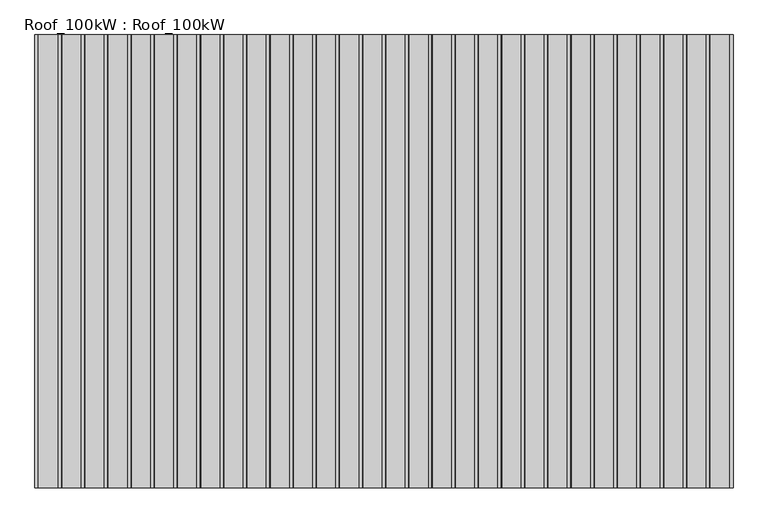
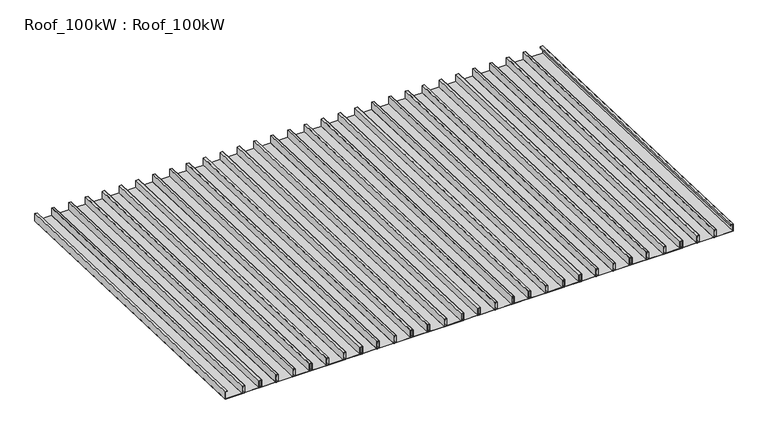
"""IFC4 building model written with IfcOpenShell, lengths in millimetres: beam geometry, Roof_100kW : Roof_100kW."""

from ifc_helpers import new_model, si_unit, origin, place, context, project, spatial, faceted_brep, source, transform, mapped, element, save


def roof_100kw_roof_100kw_570b7f92(model_context):
    return source(origin(), model_context, "Body", "Brep", [
        faceted_brep([(1865.1546242, -12.227048, 3512.7230441), (1865.1546242, -12.227048, 3436.7693421), (1663.8546242, -12.227048, 3436.7693421), (1663.8546242, -12.227048, 3514.7218308), (1684.8546324, -12.227048, 3514.7218308), (1684.8546324, -12.227048, 3516.7206085), (1661.8546191, -12.227048, 3516.7206085), (1661.8546191, -12.227048, 3434.7705604), (1867.1546242, -12.227048, 3434.7705604), (1867.1546242, -12.227048, 3514.7218308), (1842.5546246, -12.227048, 3514.7218308), (1842.5546246, -12.227048, 3497.7321843), (1844.5546251, -12.227048, 3497.7321843), (1844.5546251, -12.227048, 3512.7230441), (1865.1546242, 3464.453761, 3391.3146758), (1844.5546251, 3464.453761, 3391.3146758), (1844.5546251, 3464.453761, 3376.3238198), (1842.5546246, 3464.453761, 3376.3238198), (1842.5546246, 3464.453761, 3393.3134574), (1867.1546294, 3464.453761, 3393.3134574), (1867.1546294, 3464.453761, 3313.3621913), (1661.8546242, 3464.453761, 3313.3621913), (1661.8546242, 3464.453761, 3395.312244), (1684.8546242, 3464.453761, 3395.312244), (1684.8546242, 3464.453761, 3393.3134574), (1663.8546242, 3464.453761, 3393.3134574), (1663.8546242, 3464.453761, 3315.3609776), (1865.1546242, 3464.453761, 3315.3609776)], [[[0, 1, 2, 3, 4, 5, 6, 7, 8, 9, 10, 11, 12, 13]], [[14, 15, 16, 17, 18, 19, 20, 21, 22, 23, 24, 25, 26, 27]], [[14, 27, 1, 0]], [[27, 26, 2, 1]], [[26, 25, 3, 2]], [[25, 24, 4, 3]], [[24, 23, 5, 4]], [[23, 22, 6, 5]], [[22, 21, 7, 6]], [[21, 20, 8, 7]], [[20, 19, 9, 8]], [[19, 18, 10, 9]], [[18, 17, 11, 10]], [[17, 16, 12, 11]], [[16, 15, 13, 12]], [[15, 14, 0, 13]]]),
        faceted_brep([(1687.5378612, -12.227048, 3512.7230441), (1687.5378612, -12.227048, 3436.7693421), (1486.2378612, -12.227048, 3436.7693421), (1486.2378612, -12.227048, 3514.7218308), (1507.2378694, -12.227048, 3514.7218308), (1507.2378694, -12.227048, 3516.7206085), (1484.2378561, -12.227048, 3516.7206085), (1484.2378561, -12.227048, 3434.7705604), (1689.5378612, -12.227048, 3434.7705604), (1689.5378612, -12.227048, 3514.7218308), (1664.9378616, -12.227048, 3514.7218308), (1664.9378616, -12.227048, 3497.7321843), (1666.9378621, -12.227048, 3497.7321843), (1666.9378621, -12.227048, 3512.7230441), (1687.5378612, 3464.453761, 3391.3146758), (1666.9378621, 3464.453761, 3391.3146758), (1666.9378621, 3464.453761, 3376.3238198), (1664.9378616, 3464.453761, 3376.3238198), (1664.9378616, 3464.453761, 3393.3134574), (1689.5378664, 3464.453761, 3393.3134574), (1689.5378664, 3464.453761, 3313.3621913), (1484.2378612, 3464.453761, 3313.3621913), (1484.2378612, 3464.453761, 3395.312244), (1507.2378612, 3464.453761, 3395.312244), (1507.2378612, 3464.453761, 3393.3134574), (1486.2378612, 3464.453761, 3393.3134574), (1486.2378612, 3464.453761, 3315.3609776), (1687.5378612, 3464.453761, 3315.3609776)], [[[0, 1, 2, 3, 4, 5, 6, 7, 8, 9, 10, 11, 12, 13]], [[14, 15, 16, 17, 18, 19, 20, 21, 22, 23, 24, 25, 26, 27]], [[14, 27, 1, 0]], [[27, 26, 2, 1]], [[26, 25, 3, 2]], [[25, 24, 4, 3]], [[24, 23, 5, 4]], [[23, 22, 6, 5]], [[22, 21, 7, 6]], [[21, 20, 8, 7]], [[20, 19, 9, 8]], [[19, 18, 10, 9]], [[18, 17, 11, 10]], [[17, 16, 12, 11]], [[16, 15, 13, 12]], [[15, 14, 0, 13]]]),
        faceted_brep([(1509.9210982, -12.227048, 3512.7230441), (1509.9210982, -12.227048, 3436.7693421), (1308.6210982, -12.227048, 3436.7693421), (1308.6210982, -12.227048, 3514.7218308), (1329.6211064, -12.227048, 3514.7218308), (1329.6211064, -12.227048, 3516.7206085), (1306.6210931, -12.227048, 3516.7206085), (1306.6210931, -12.227048, 3434.7705604), (1511.9210982, -12.227048, 3434.7705604), (1511.9210982, -12.227048, 3514.7218308), (1487.3210986, -12.227048, 3514.7218308), (1487.3210986, -12.227048, 3497.7321843), (1489.3210991, -12.227048, 3497.7321843), (1489.3210991, -12.227048, 3512.7230441), (1509.9210982, 3464.453761, 3391.3146758), (1489.3210991, 3464.453761, 3391.3146758), (1489.3210991, 3464.453761, 3376.3238198), (1487.3210986, 3464.453761, 3376.3238198), (1487.3210986, 3464.453761, 3393.3134574), (1511.9211034, 3464.453761, 3393.3134574), (1511.9211034, 3464.453761, 3313.3621913), (1306.6210982, 3464.453761, 3313.3621913), (1306.6210982, 3464.453761, 3395.312244), (1329.6210982, 3464.453761, 3395.312244), (1329.6210982, 3464.453761, 3393.3134574), (1308.6210982, 3464.453761, 3393.3134574), (1308.6210982, 3464.453761, 3315.3609776), (1509.9210982, 3464.453761, 3315.3609776)], [[[0, 1, 2, 3, 4, 5, 6, 7, 8, 9, 10, 11, 12, 13]], [[14, 15, 16, 17, 18, 19, 20, 21, 22, 23, 24, 25, 26, 27]], [[14, 27, 1, 0]], [[27, 26, 2, 1]], [[26, 25, 3, 2]], [[25, 24, 4, 3]], [[24, 23, 5, 4]], [[23, 22, 6, 5]], [[22, 21, 7, 6]], [[21, 20, 8, 7]], [[20, 19, 9, 8]], [[19, 18, 10, 9]], [[18, 17, 11, 10]], [[17, 16, 12, 11]], [[16, 15, 13, 12]], [[15, 14, 0, 13]]]),
        faceted_brep([(1332.3043352, -12.227048, 3512.7230441), (1332.3043352, -12.227048, 3436.7693421), (1131.0043352, -12.227048, 3436.7693421), (1131.0043352, -12.227048, 3514.7218308), (1152.0043434, -12.227048, 3514.7218308), (1152.0043434, -12.227048, 3516.7206085), (1129.0043301, -12.227048, 3516.7206085), (1129.0043301, -12.227048, 3434.7705604), (1334.3043352, -12.227048, 3434.7705604), (1334.3043352, -12.227048, 3514.7218308), (1309.7043355, -12.227048, 3514.7218308), (1309.7043355, -12.227048, 3497.7321843), (1311.7043361, -12.227048, 3497.7321843), (1311.7043361, -12.227048, 3512.7230441), (1332.3043352, 3464.453761, 3391.3146758), (1311.7043361, 3464.453761, 3391.3146758), (1311.7043361, 3464.453761, 3376.3238198), (1309.7043355, 3464.453761, 3376.3238198), (1309.7043355, 3464.453761, 3393.3134574), (1334.3043404, 3464.453761, 3393.3134574), (1334.3043404, 3464.453761, 3313.3621913), (1129.0043352, 3464.453761, 3313.3621913), (1129.0043352, 3464.453761, 3395.312244), (1152.0043352, 3464.453761, 3395.312244), (1152.0043352, 3464.453761, 3393.3134574), (1131.0043352, 3464.453761, 3393.3134574), (1131.0043352, 3464.453761, 3315.3609776), (1332.3043352, 3464.453761, 3315.3609776)], [[[0, 1, 2, 3, 4, 5, 6, 7, 8, 9, 10, 11, 12, 13]], [[14, 15, 16, 17, 18, 19, 20, 21, 22, 23, 24, 25, 26, 27]], [[14, 27, 1, 0]], [[27, 26, 2, 1]], [[26, 25, 3, 2]], [[25, 24, 4, 3]], [[24, 23, 5, 4]], [[23, 22, 6, 5]], [[22, 21, 7, 6]], [[21, 20, 8, 7]], [[20, 19, 9, 8]], [[19, 18, 10, 9]], [[18, 17, 11, 10]], [[17, 16, 12, 11]], [[16, 15, 13, 12]], [[15, 14, 0, 13]]]),
        faceted_brep([(1154.6875722, -12.227048, 3512.7230441), (1154.6875722, -12.227048, 3436.7693421), (953.3875722, -12.227048, 3436.7693421), (953.3875722, -12.227048, 3514.7218308), (974.3875804, -12.227048, 3514.7218308), (974.3875804, -12.227048, 3516.7206085), (951.3875671, -12.227048, 3516.7206085), (951.3875671, -12.227048, 3434.7705604), (1156.6875722, -12.227048, 3434.7705604), (1156.6875722, -12.227048, 3514.7218308), (1132.0875725, -12.227048, 3514.7218308), (1132.0875725, -12.227048, 3497.7321843), (1134.0875731, -12.227048, 3497.7321843), (1134.0875731, -12.227048, 3512.7230441), (1154.6875722, 3464.453761, 3391.3146758), (1134.0875731, 3464.453761, 3391.3146758), (1134.0875731, 3464.453761, 3376.3238198), (1132.0875725, 3464.453761, 3376.3238198), (1132.0875725, 3464.453761, 3393.3134574), (1156.6875774, 3464.453761, 3393.3134574), (1156.6875774, 3464.453761, 3313.3621913), (951.3875722, 3464.453761, 3313.3621913), (951.3875722, 3464.453761, 3395.312244), (974.3875722, 3464.453761, 3395.312244), (974.3875722, 3464.453761, 3393.3134574), (953.3875722, 3464.453761, 3393.3134574), (953.3875722, 3464.453761, 3315.3609776), (1154.6875722, 3464.453761, 3315.3609776)], [[[0, 1, 2, 3, 4, 5, 6, 7, 8, 9, 10, 11, 12, 13]], [[14, 15, 16, 17, 18, 19, 20, 21, 22, 23, 24, 25, 26, 27]], [[14, 27, 1, 0]], [[27, 26, 2, 1]], [[26, 25, 3, 2]], [[25, 24, 4, 3]], [[24, 23, 5, 4]], [[23, 22, 6, 5]], [[22, 21, 7, 6]], [[21, 20, 8, 7]], [[20, 19, 9, 8]], [[19, 18, 10, 9]], [[18, 17, 11, 10]], [[17, 16, 12, 11]], [[16, 15, 13, 12]], [[15, 14, 0, 13]]]),
        faceted_brep([(977.0708092, -12.227048, 3512.7230441), (977.0708092, -12.227048, 3436.7693421), (775.7708092, -12.227048, 3436.7693421), (775.7708092, -12.227048, 3514.7218308), (796.7708174, -12.227048, 3514.7218308), (796.7708174, -12.227048, 3516.7206085), (773.7708041, -12.227048, 3516.7206085), (773.7708041, -12.227048, 3434.7705604), (979.0708092, -12.227048, 3434.7705604), (979.0708092, -12.227048, 3514.7218308), (954.4708095, -12.227048, 3514.7218308), (954.4708095, -12.227048, 3497.7321843), (956.4708101, -12.227048, 3497.7321843), (956.4708101, -12.227048, 3512.7230441), (977.0708092, 3464.453761, 3391.3146758), (956.4708101, 3464.453761, 3391.3146758), (956.4708101, 3464.453761, 3376.3238198), (954.4708095, 3464.453761, 3376.3238198), (954.4708095, 3464.453761, 3393.3134574), (979.0708144, 3464.453761, 3393.3134574), (979.0708144, 3464.453761, 3313.3621913), (773.7708092, 3464.453761, 3313.3621913), (773.7708092, 3464.453761, 3395.312244), (796.7708092, 3464.453761, 3395.312244), (796.7708092, 3464.453761, 3393.3134574), (775.7708092, 3464.453761, 3393.3134574), (775.7708092, 3464.453761, 3315.3609776), (977.0708092, 3464.453761, 3315.3609776)], [[[0, 1, 2, 3, 4, 5, 6, 7, 8, 9, 10, 11, 12, 13]], [[14, 15, 16, 17, 18, 19, 20, 21, 22, 23, 24, 25, 26, 27]], [[14, 27, 1, 0]], [[27, 26, 2, 1]], [[26, 25, 3, 2]], [[25, 24, 4, 3]], [[24, 23, 5, 4]], [[23, 22, 6, 5]], [[22, 21, 7, 6]], [[21, 20, 8, 7]], [[20, 19, 9, 8]], [[19, 18, 10, 9]], [[18, 17, 11, 10]], [[17, 16, 12, 11]], [[16, 15, 13, 12]], [[15, 14, 0, 13]]]),
        faceted_brep([(799.4540462, -12.227048, 3512.7230441), (799.4540462, -12.227048, 3436.7693421), (598.1540462, -12.227048, 3436.7693421), (598.1540462, -12.227048, 3514.7218308), (619.1540544, -12.227048, 3514.7218308), (619.1540544, -12.227048, 3516.7206085), (596.1540411, -12.227048, 3516.7206085), (596.1540411, -12.227048, 3434.7705604), (801.4540462, -12.227048, 3434.7705604), (801.4540462, -12.227048, 3514.7218308), (776.8540465, -12.227048, 3514.7218308), (776.8540465, -12.227048, 3497.7321843), (778.8540471, -12.227048, 3497.7321843), (778.8540471, -12.227048, 3512.7230441), (799.4540462, 3464.453761, 3391.3146758), (778.8540471, 3464.453761, 3391.3146758), (778.8540471, 3464.453761, 3376.3238198), (776.8540465, 3464.453761, 3376.3238198), (776.8540465, 3464.453761, 3393.3134574), (801.4540514, 3464.453761, 3393.3134574), (801.4540514, 3464.453761, 3313.3621913), (596.1540462, 3464.453761, 3313.3621913), (596.1540462, 3464.453761, 3395.312244), (619.1540462, 3464.453761, 3395.312244), (619.1540462, 3464.453761, 3393.3134574), (598.1540462, 3464.453761, 3393.3134574), (598.1540462, 3464.453761, 3315.3609776), (799.4540462, 3464.453761, 3315.3609776)], [[[0, 1, 2, 3, 4, 5, 6, 7, 8, 9, 10, 11, 12, 13]], [[14, 15, 16, 17, 18, 19, 20, 21, 22, 23, 24, 25, 26, 27]], [[14, 27, 1, 0]], [[27, 26, 2, 1]], [[26, 25, 3, 2]], [[25, 24, 4, 3]], [[24, 23, 5, 4]], [[23, 22, 6, 5]], [[22, 21, 7, 6]], [[21, 20, 8, 7]], [[20, 19, 9, 8]], [[19, 18, 10, 9]], [[18, 17, 11, 10]], [[17, 16, 12, 11]], [[16, 15, 13, 12]], [[15, 14, 0, 13]]]),
        faceted_brep([(621.8372832, -12.227048, 3512.7230441), (621.8372832, -12.227048, 3436.7693421), (420.5372832, -12.227048, 3436.7693421), (420.5372832, -12.227048, 3514.7218308), (441.5372914, -12.227048, 3514.7218308), (441.5372914, -12.227048, 3516.7206085), (418.5372781, -12.227048, 3516.7206085), (418.5372781, -12.227048, 3434.7705604), (623.8372832, -12.227048, 3434.7705604), (623.8372832, -12.227048, 3514.7218308), (599.2372835, -12.227048, 3514.7218308), (599.2372835, -12.227048, 3497.7321843), (601.2372841, -12.227048, 3497.7321843), (601.2372841, -12.227048, 3512.7230441), (621.8372832, 3464.453761, 3391.3146758), (601.2372841, 3464.453761, 3391.3146758), (601.2372841, 3464.453761, 3376.3238198), (599.2372835, 3464.453761, 3376.3238198), (599.2372835, 3464.453761, 3393.3134574), (623.8372884, 3464.453761, 3393.3134574), (623.8372884, 3464.453761, 3313.3621913), (418.5372832, 3464.453761, 3313.3621913), (418.5372832, 3464.453761, 3395.312244), (441.5372832, 3464.453761, 3395.312244), (441.5372832, 3464.453761, 3393.3134574), (420.5372832, 3464.453761, 3393.3134574), (420.5372832, 3464.453761, 3315.3609776), (621.8372832, 3464.453761, 3315.3609776)], [[[0, 1, 2, 3, 4, 5, 6, 7, 8, 9, 10, 11, 12, 13]], [[14, 15, 16, 17, 18, 19, 20, 21, 22, 23, 24, 25, 26, 27]], [[14, 27, 1, 0]], [[27, 26, 2, 1]], [[26, 25, 3, 2]], [[25, 24, 4, 3]], [[24, 23, 5, 4]], [[23, 22, 6, 5]], [[22, 21, 7, 6]], [[21, 20, 8, 7]], [[20, 19, 9, 8]], [[19, 18, 10, 9]], [[18, 17, 11, 10]], [[17, 16, 12, 11]], [[16, 15, 13, 12]], [[15, 14, 0, 13]]]),
        faceted_brep([(444.2205202, -12.227048, 3512.7230441), (444.2205202, -12.227048, 3436.7693421), (242.9205202, -12.227048, 3436.7693421), (242.9205202, -12.227048, 3514.7218308), (263.9205284, -12.227048, 3514.7218308), (263.9205284, -12.227048, 3516.7206085), (240.9205151, -12.227048, 3516.7206085), (240.9205151, -12.227048, 3434.7705604), (446.2205202, -12.227048, 3434.7705604), (446.2205202, -12.227048, 3514.7218308), (421.6205205, -12.227048, 3514.7218308), (421.6205205, -12.227048, 3497.7321843), (423.6205211, -12.227048, 3497.7321843), (423.6205211, -12.227048, 3512.7230441), (444.2205202, 3464.453761, 3391.3146758), (423.6205211, 3464.453761, 3391.3146758), (423.6205211, 3464.453761, 3376.3238198), (421.6205205, 3464.453761, 3376.3238198), (421.6205205, 3464.453761, 3393.3134574), (446.2205254, 3464.453761, 3393.3134574), (446.2205254, 3464.453761, 3313.3621913), (240.9205202, 3464.453761, 3313.3621913), (240.9205202, 3464.453761, 3395.312244), (263.9205202, 3464.453761, 3395.312244), (263.9205202, 3464.453761, 3393.3134574), (242.9205202, 3464.453761, 3393.3134574), (242.9205202, 3464.453761, 3315.3609776), (444.2205202, 3464.453761, 3315.3609776)], [[[0, 1, 2, 3, 4, 5, 6, 7, 8, 9, 10, 11, 12, 13]], [[14, 15, 16, 17, 18, 19, 20, 21, 22, 23, 24, 25, 26, 27]], [[14, 27, 1, 0]], [[27, 26, 2, 1]], [[26, 25, 3, 2]], [[25, 24, 4, 3]], [[24, 23, 5, 4]], [[23, 22, 6, 5]], [[22, 21, 7, 6]], [[21, 20, 8, 7]], [[20, 19, 9, 8]], [[19, 18, 10, 9]], [[18, 17, 11, 10]], [[17, 16, 12, 11]], [[16, 15, 13, 12]], [[15, 14, 0, 13]]]),
        faceted_brep([(266.6037572, -12.227048, 3512.7230441), (266.6037572, -12.227048, 3436.7693421), (65.3037572, -12.227048, 3436.7693421), (65.3037572, -12.227048, 3514.7218308), (86.3037654, -12.227048, 3514.7218308), (86.3037654, -12.227048, 3516.7206085), (63.3037521, -12.227048, 3516.7206085), (63.3037521, -12.227048, 3434.7705604), (268.6037572, -12.227048, 3434.7705604), (268.6037572, -12.227048, 3514.7218308), (244.0037575, -12.227048, 3514.7218308), (244.0037575, -12.227048, 3497.7321843), (246.0037581, -12.227048, 3497.7321843), (246.0037581, -12.227048, 3512.7230441), (266.6037572, 3464.453761, 3391.3146758), (246.0037581, 3464.453761, 3391.3146758), (246.0037581, 3464.453761, 3376.3238198), (244.0037575, 3464.453761, 3376.3238198), (244.0037575, 3464.453761, 3393.3134574), (268.6037624, 3464.453761, 3393.3134574), (268.6037624, 3464.453761, 3313.3621913), (63.3037572, 3464.453761, 3313.3621913), (63.3037572, 3464.453761, 3395.312244), (86.3037572, 3464.453761, 3395.312244), (86.3037572, 3464.453761, 3393.3134574), (65.3037572, 3464.453761, 3393.3134574), (65.3037572, 3464.453761, 3315.3609776), (266.6037572, 3464.453761, 3315.3609776)], [[[0, 1, 2, 3, 4, 5, 6, 7, 8, 9, 10, 11, 12, 13]], [[14, 15, 16, 17, 18, 19, 20, 21, 22, 23, 24, 25, 26, 27]], [[14, 27, 1, 0]], [[27, 26, 2, 1]], [[26, 25, 3, 2]], [[25, 24, 4, 3]], [[24, 23, 5, 4]], [[23, 22, 6, 5]], [[22, 21, 7, 6]], [[21, 20, 8, 7]], [[20, 19, 9, 8]], [[19, 18, 10, 9]], [[18, 17, 11, 10]], [[17, 16, 12, 11]], [[16, 15, 13, 12]], [[15, 14, 0, 13]]]),
        faceted_brep([(88.9869942, -12.227048, 3512.7230441), (88.9869942, -12.227048, 3436.7693421), (-112.3130058, -12.227048, 3436.7693421), (-112.3130058, -12.227048, 3514.7218308), (-91.3129977, -12.227048, 3514.7218308), (-91.3129977, -12.227048, 3516.7206085), (-114.3130109, -12.227048, 3516.7206085), (-114.3130109, -12.227048, 3434.7705604), (90.9869941, -12.227048, 3434.7705604), (90.9869941, -12.227048, 3514.7218308), (66.3869945, -12.227048, 3514.7218308), (66.3869945, -12.227048, 3497.7321843), (68.3869951, -12.227048, 3497.7321843), (68.3869951, -12.227048, 3512.7230441), (88.9869941, 3464.453761, 3391.3146758), (68.3869951, 3464.453761, 3391.3146758), (68.3869951, 3464.453761, 3376.3238198), (66.3869945, 3464.453761, 3376.3238198), (66.3869945, 3464.453761, 3393.3134574), (90.9869994, 3464.453761, 3393.3134574), (90.9869994, 3464.453761, 3313.3621913), (-114.3130059, 3464.453761, 3313.3621913), (-114.3130059, 3464.453761, 3395.312244), (-91.3130059, 3464.453761, 3395.312244), (-91.3130059, 3464.453761, 3393.3134574), (-112.3130059, 3464.453761, 3393.3134574), (-112.3130059, 3464.453761, 3315.3609776), (88.9869941, 3464.453761, 3315.3609776)], [[[0, 1, 2, 3, 4, 5, 6, 7, 8, 9, 10, 11, 12, 13]], [[14, 15, 16, 17, 18, 19, 20, 21, 22, 23, 24, 25, 26, 27]], [[14, 27, 1, 0]], [[27, 26, 2, 1]], [[26, 25, 3, 2]], [[25, 24, 4, 3]], [[24, 23, 5, 4]], [[23, 22, 6, 5]], [[22, 21, 7, 6]], [[21, 20, 8, 7]], [[20, 19, 9, 8]], [[19, 18, 10, 9]], [[18, 17, 11, 10]], [[17, 16, 12, 11]], [[16, 15, 13, 12]], [[15, 14, 0, 13]]]),
        faceted_brep([(-88.6297689, -12.227048, 3512.7230441), (-88.6297689, -12.227048, 3436.7693421), (-289.9297688, -12.227048, 3436.7693421), (-289.9297688, -12.227048, 3514.7218308), (-268.9297607, -12.227048, 3514.7218308), (-268.9297607, -12.227048, 3516.7206085), (-291.9297739, -12.227048, 3516.7206085), (-291.9297739, -12.227048, 3434.7705604), (-86.6297689, -12.227048, 3434.7705604), (-86.6297689, -12.227048, 3514.7218308), (-111.2297685, -12.227048, 3514.7218308), (-111.2297685, -12.227048, 3497.7321843), (-109.2297679, -12.227048, 3497.7321843), (-109.2297679, -12.227048, 3512.7230441), (-88.6297689, 3464.453761, 3391.3146758), (-109.2297679, 3464.453761, 3391.3146758), (-109.2297679, 3464.453761, 3376.3238198), (-111.2297685, 3464.453761, 3376.3238198), (-111.2297685, 3464.453761, 3393.3134574), (-86.6297636, 3464.453761, 3393.3134574), (-86.6297636, 3464.453761, 3313.3621913), (-291.9297689, 3464.453761, 3313.3621913), (-291.9297689, 3464.453761, 3395.312244), (-268.9297689, 3464.453761, 3395.312244), (-268.9297689, 3464.453761, 3393.3134574), (-289.9297689, 3464.453761, 3393.3134574), (-289.9297689, 3464.453761, 3315.3609776), (-88.6297689, 3464.453761, 3315.3609776)], [[[0, 1, 2, 3, 4, 5, 6, 7, 8, 9, 10, 11, 12, 13]], [[14, 15, 16, 17, 18, 19, 20, 21, 22, 23, 24, 25, 26, 27]], [[14, 27, 1, 0]], [[27, 26, 2, 1]], [[26, 25, 3, 2]], [[25, 24, 4, 3]], [[24, 23, 5, 4]], [[23, 22, 6, 5]], [[22, 21, 7, 6]], [[21, 20, 8, 7]], [[20, 19, 9, 8]], [[19, 18, 10, 9]], [[18, 17, 11, 10]], [[17, 16, 12, 11]], [[16, 15, 13, 12]], [[15, 14, 0, 13]]]),
        faceted_brep([(-266.2465319, -12.227048, 3512.7230441), (-266.2465319, -12.227048, 3436.7693421), (-467.5465318, -12.227048, 3436.7693421), (-467.5465318, -12.227048, 3514.7218308), (-446.5465237, -12.227048, 3514.7218308), (-446.5465237, -12.227048, 3516.7206085), (-469.5465369, -12.227048, 3516.7206085), (-469.5465369, -12.227048, 3434.7705604), (-264.2465319, -12.227048, 3434.7705604), (-264.2465319, -12.227048, 3514.7218308), (-288.8465315, -12.227048, 3514.7218308), (-288.8465315, -12.227048, 3497.7321843), (-286.8465309, -12.227048, 3497.7321843), (-286.8465309, -12.227048, 3512.7230441), (-266.2465319, 3464.453761, 3391.3146758), (-286.8465309, 3464.453761, 3391.3146758), (-286.8465309, 3464.453761, 3376.3238198), (-288.8465315, 3464.453761, 3376.3238198), (-288.8465315, 3464.453761, 3393.3134574), (-264.2465266, 3464.453761, 3393.3134574), (-264.2465266, 3464.453761, 3313.3621913), (-469.5465319, 3464.453761, 3313.3621913), (-469.5465319, 3464.453761, 3395.312244), (-446.5465319, 3464.453761, 3395.312244), (-446.5465319, 3464.453761, 3393.3134574), (-467.5465319, 3464.453761, 3393.3134574), (-467.5465319, 3464.453761, 3315.3609776), (-266.2465319, 3464.453761, 3315.3609776)], [[[0, 1, 2, 3, 4, 5, 6, 7, 8, 9, 10, 11, 12, 13]], [[14, 15, 16, 17, 18, 19, 20, 21, 22, 23, 24, 25, 26, 27]], [[14, 27, 1, 0]], [[27, 26, 2, 1]], [[26, 25, 3, 2]], [[25, 24, 4, 3]], [[24, 23, 5, 4]], [[23, 22, 6, 5]], [[22, 21, 7, 6]], [[21, 20, 8, 7]], [[20, 19, 9, 8]], [[19, 18, 10, 9]], [[18, 17, 11, 10]], [[17, 16, 12, 11]], [[16, 15, 13, 12]], [[15, 14, 0, 13]]]),
        faceted_brep([(-443.8632949, -12.227048, 3512.7230441), (-443.8632949, -12.227048, 3436.7693421), (-645.1632948, -12.227048, 3436.7693421), (-645.1632948, -12.227048, 3514.7218308), (-624.1632867, -12.227048, 3514.7218308), (-624.1632867, -12.227048, 3516.7206085), (-647.1632999, -12.227048, 3516.7206085), (-647.1632999, -12.227048, 3434.7705604), (-441.8632949, -12.227048, 3434.7705604), (-441.8632949, -12.227048, 3514.7218308), (-466.4632945, -12.227048, 3514.7218308), (-466.4632945, -12.227048, 3497.7321843), (-464.4632939, -12.227048, 3497.7321843), (-464.4632939, -12.227048, 3512.7230441), (-443.8632949, 3464.453761, 3391.3146758), (-464.4632939, 3464.453761, 3391.3146758), (-464.4632939, 3464.453761, 3376.3238198), (-466.4632945, 3464.453761, 3376.3238198), (-466.4632945, 3464.453761, 3393.3134574), (-441.8632896, 3464.453761, 3393.3134574), (-441.8632896, 3464.453761, 3313.3621913), (-647.1632949, 3464.453761, 3313.3621913), (-647.1632949, 3464.453761, 3395.312244), (-624.1632949, 3464.453761, 3395.312244), (-624.1632949, 3464.453761, 3393.3134574), (-645.1632949, 3464.453761, 3393.3134574), (-645.1632949, 3464.453761, 3315.3609776), (-443.8632949, 3464.453761, 3315.3609776)], [[[0, 1, 2, 3, 4, 5, 6, 7, 8, 9, 10, 11, 12, 13]], [[14, 15, 16, 17, 18, 19, 20, 21, 22, 23, 24, 25, 26, 27]], [[14, 27, 1, 0]], [[27, 26, 2, 1]], [[26, 25, 3, 2]], [[25, 24, 4, 3]], [[24, 23, 5, 4]], [[23, 22, 6, 5]], [[22, 21, 7, 6]], [[21, 20, 8, 7]], [[20, 19, 9, 8]], [[19, 18, 10, 9]], [[18, 17, 11, 10]], [[17, 16, 12, 11]], [[16, 15, 13, 12]], [[15, 14, 0, 13]]]),
        faceted_brep([(-621.4800579, -12.227048, 3512.7230441), (-621.4800579, -12.227048, 3436.7693421), (-822.7800578, -12.227048, 3436.7693421), (-822.7800578, -12.227048, 3514.7218308), (-801.7800497, -12.227048, 3514.7218308), (-801.7800497, -12.227048, 3516.7206085), (-824.7800629, -12.227048, 3516.7206085), (-824.7800629, -12.227048, 3434.7705604), (-619.4800579, -12.227048, 3434.7705604), (-619.4800579, -12.227048, 3514.7218308), (-644.0800575, -12.227048, 3514.7218308), (-644.0800575, -12.227048, 3497.7321843), (-642.0800569, -12.227048, 3497.7321843), (-642.0800569, -12.227048, 3512.7230441), (-621.4800579, 3464.453761, 3391.3146758), (-642.0800569, 3464.453761, 3391.3146758), (-642.0800569, 3464.453761, 3376.3238198), (-644.0800575, 3464.453761, 3376.3238198), (-644.0800575, 3464.453761, 3393.3134574), (-619.4800526, 3464.453761, 3393.3134574), (-619.4800526, 3464.453761, 3313.3621913), (-824.7800579, 3464.453761, 3313.3621913), (-824.7800579, 3464.453761, 3395.312244), (-801.7800579, 3464.453761, 3395.312244), (-801.7800579, 3464.453761, 3393.3134574), (-822.7800579, 3464.453761, 3393.3134574), (-822.7800579, 3464.453761, 3315.3609776), (-621.4800579, 3464.453761, 3315.3609776)], [[[0, 1, 2, 3, 4, 5, 6, 7, 8, 9, 10, 11, 12, 13]], [[14, 15, 16, 17, 18, 19, 20, 21, 22, 23, 24, 25, 26, 27]], [[14, 27, 1, 0]], [[27, 26, 2, 1]], [[26, 25, 3, 2]], [[25, 24, 4, 3]], [[24, 23, 5, 4]], [[23, 22, 6, 5]], [[22, 21, 7, 6]], [[21, 20, 8, 7]], [[20, 19, 9, 8]], [[19, 18, 10, 9]], [[18, 17, 11, 10]], [[17, 16, 12, 11]], [[16, 15, 13, 12]], [[15, 14, 0, 13]]]),
        faceted_brep([(-799.0968209, -12.227048, 3512.7230441), (-799.0968209, -12.227048, 3436.7693421), (-1000.3968208, -12.227048, 3436.7693421), (-1000.3968208, -12.227048, 3514.7218308), (-979.3968127, -12.227048, 3514.7218308), (-979.3968127, -12.227048, 3516.7206085), (-1002.3968259, -12.227048, 3516.7206085), (-1002.3968259, -12.227048, 3434.7705604), (-797.0968209, -12.227048, 3434.7705604), (-797.0968209, -12.227048, 3514.7218308), (-821.6968205, -12.227048, 3514.7218308), (-821.6968205, -12.227048, 3497.7321843), (-819.6968199, -12.227048, 3497.7321843), (-819.6968199, -12.227048, 3512.7230441), (-799.0968209, 3464.453761, 3391.3146758), (-819.6968199, 3464.453761, 3391.3146758), (-819.6968199, 3464.453761, 3376.3238198), (-821.6968205, 3464.453761, 3376.3238198), (-821.6968205, 3464.453761, 3393.3134574), (-797.0968156, 3464.453761, 3393.3134574), (-797.0968156, 3464.453761, 3313.3621913), (-1002.3968209, 3464.453761, 3313.3621913), (-1002.3968209, 3464.453761, 3395.312244), (-979.3968209, 3464.453761, 3395.312244), (-979.3968209, 3464.453761, 3393.3134574), (-1000.3968209, 3464.453761, 3393.3134574), (-1000.3968209, 3464.453761, 3315.3609776), (-799.0968209, 3464.453761, 3315.3609776)], [[[0, 1, 2, 3, 4, 5, 6, 7, 8, 9, 10, 11, 12, 13]], [[14, 15, 16, 17, 18, 19, 20, 21, 22, 23, 24, 25, 26, 27]], [[14, 27, 1, 0]], [[27, 26, 2, 1]], [[26, 25, 3, 2]], [[25, 24, 4, 3]], [[24, 23, 5, 4]], [[23, 22, 6, 5]], [[22, 21, 7, 6]], [[21, 20, 8, 7]], [[20, 19, 9, 8]], [[19, 18, 10, 9]], [[18, 17, 11, 10]], [[17, 16, 12, 11]], [[16, 15, 13, 12]], [[15, 14, 0, 13]]]),
        faceted_brep([(-976.7135839, -12.227048, 3512.7230441), (-976.7135839, -12.227048, 3436.7693421), (-1178.0135838, -12.227048, 3436.7693421), (-1178.0135838, -12.227048, 3514.7218308), (-1157.0135757, -12.227048, 3514.7218308), (-1157.0135757, -12.227048, 3516.7206085), (-1180.0135889, -12.227048, 3516.7206085), (-1180.0135889, -12.227048, 3434.7705604), (-974.7135839, -12.227048, 3434.7705604), (-974.7135839, -12.227048, 3514.7218308), (-999.3135835, -12.227048, 3514.7218308), (-999.3135835, -12.227048, 3497.7321843), (-997.3135829, -12.227048, 3497.7321843), (-997.3135829, -12.227048, 3512.7230441), (-976.7135839, 3464.453761, 3391.3146758), (-997.3135829, 3464.453761, 3391.3146758), (-997.3135829, 3464.453761, 3376.3238198), (-999.3135835, 3464.453761, 3376.3238198), (-999.3135835, 3464.453761, 3393.3134574), (-974.7135786, 3464.453761, 3393.3134574), (-974.7135786, 3464.453761, 3313.3621913), (-1180.0135839, 3464.453761, 3313.3621913), (-1180.0135839, 3464.453761, 3395.312244), (-1157.0135839, 3464.453761, 3395.312244), (-1157.0135839, 3464.453761, 3393.3134574), (-1178.0135839, 3464.453761, 3393.3134574), (-1178.0135839, 3464.453761, 3315.3609776), (-976.7135839, 3464.453761, 3315.3609776)], [[[0, 1, 2, 3, 4, 5, 6, 7, 8, 9, 10, 11, 12, 13]], [[14, 15, 16, 17, 18, 19, 20, 21, 22, 23, 24, 25, 26, 27]], [[14, 27, 1, 0]], [[27, 26, 2, 1]], [[26, 25, 3, 2]], [[25, 24, 4, 3]], [[24, 23, 5, 4]], [[23, 22, 6, 5]], [[22, 21, 7, 6]], [[21, 20, 8, 7]], [[20, 19, 9, 8]], [[19, 18, 10, 9]], [[18, 17, 11, 10]], [[17, 16, 12, 11]], [[16, 15, 13, 12]], [[15, 14, 0, 13]]]),
        faceted_brep([(-1154.3303469, -12.227048, 3512.7230441), (-1154.3303469, -12.227048, 3436.7693421), (-1355.6303468, -12.227048, 3436.7693421), (-1355.6303468, -12.227048, 3514.7218308), (-1334.6303387, -12.227048, 3514.7218308), (-1334.6303387, -12.227048, 3516.7206085), (-1357.6303519, -12.227048, 3516.7206085), (-1357.6303519, -12.227048, 3434.7705604), (-1152.3303469, -12.227048, 3434.7705604), (-1152.3303469, -12.227048, 3514.7218308), (-1176.9303465, -12.227048, 3514.7218308), (-1176.9303465, -12.227048, 3497.7321843), (-1174.9303459, -12.227048, 3497.7321843), (-1174.9303459, -12.227048, 3512.7230441), (-1154.3303469, 3464.453761, 3391.3146758), (-1174.9303459, 3464.453761, 3391.3146758), (-1174.9303459, 3464.453761, 3376.3238198), (-1176.9303465, 3464.453761, 3376.3238198), (-1176.9303465, 3464.453761, 3393.3134574), (-1152.3303416, 3464.453761, 3393.3134574), (-1152.3303416, 3464.453761, 3313.3621913), (-1357.6303469, 3464.453761, 3313.3621913), (-1357.6303469, 3464.453761, 3395.312244), (-1334.6303469, 3464.453761, 3395.312244), (-1334.6303469, 3464.453761, 3393.3134574), (-1355.6303469, 3464.453761, 3393.3134574), (-1355.6303469, 3464.453761, 3315.3609776), (-1154.3303469, 3464.453761, 3315.3609776)], [[[0, 1, 2, 3, 4, 5, 6, 7, 8, 9, 10, 11, 12, 13]], [[14, 15, 16, 17, 18, 19, 20, 21, 22, 23, 24, 25, 26, 27]], [[14, 27, 1, 0]], [[27, 26, 2, 1]], [[26, 25, 3, 2]], [[25, 24, 4, 3]], [[24, 23, 5, 4]], [[23, 22, 6, 5]], [[22, 21, 7, 6]], [[21, 20, 8, 7]], [[20, 19, 9, 8]], [[19, 18, 10, 9]], [[18, 17, 11, 10]], [[17, 16, 12, 11]], [[16, 15, 13, 12]], [[15, 14, 0, 13]]]),
        faceted_brep([(-1331.9471099, -12.227048, 3512.7230441), (-1331.9471099, -12.227048, 3436.7693421), (-1533.2471098, -12.227048, 3436.7693421), (-1533.2471098, -12.227048, 3514.7218308), (-1512.2471017, -12.227048, 3514.7218308), (-1512.2471017, -12.227048, 3516.7206085), (-1535.2471149, -12.227048, 3516.7206085), (-1535.2471149, -12.227048, 3434.7705604), (-1329.9471099, -12.227048, 3434.7705604), (-1329.9471099, -12.227048, 3514.7218308), (-1354.5471095, -12.227048, 3514.7218308), (-1354.5471095, -12.227048, 3497.7321843), (-1352.5471089, -12.227048, 3497.7321843), (-1352.5471089, -12.227048, 3512.7230441), (-1331.9471099, 3464.453761, 3391.3146758), (-1352.5471089, 3464.453761, 3391.3146758), (-1352.5471089, 3464.453761, 3376.3238198), (-1354.5471095, 3464.453761, 3376.3238198), (-1354.5471095, 3464.453761, 3393.3134574), (-1329.9471046, 3464.453761, 3393.3134574), (-1329.9471046, 3464.453761, 3313.3621913), (-1535.2471099, 3464.453761, 3313.3621913), (-1535.2471099, 3464.453761, 3395.312244), (-1512.2471099, 3464.453761, 3395.312244), (-1512.2471099, 3464.453761, 3393.3134574), (-1533.2471099, 3464.453761, 3393.3134574), (-1533.2471099, 3464.453761, 3315.3609776), (-1331.9471099, 3464.453761, 3315.3609776)], [[[0, 1, 2, 3, 4, 5, 6, 7, 8, 9, 10, 11, 12, 13]], [[14, 15, 16, 17, 18, 19, 20, 21, 22, 23, 24, 25, 26, 27]], [[14, 27, 1, 0]], [[27, 26, 2, 1]], [[26, 25, 3, 2]], [[25, 24, 4, 3]], [[24, 23, 5, 4]], [[23, 22, 6, 5]], [[22, 21, 7, 6]], [[21, 20, 8, 7]], [[20, 19, 9, 8]], [[19, 18, 10, 9]], [[18, 17, 11, 10]], [[17, 16, 12, 11]], [[16, 15, 13, 12]], [[15, 14, 0, 13]]]),
        faceted_brep([(-1509.5638729, -12.227048, 3512.7230441), (-1509.5638729, -12.227048, 3436.7693421), (-1710.8638728, -12.227048, 3436.7693421), (-1710.8638728, -12.227048, 3514.7218308), (-1689.8638647, -12.227048, 3514.7218308), (-1689.8638647, -12.227048, 3516.7206085), (-1712.8638779, -12.227048, 3516.7206085), (-1712.8638779, -12.227048, 3434.7705604), (-1507.5638729, -12.227048, 3434.7705604), (-1507.5638729, -12.227048, 3514.7218308), (-1532.1638725, -12.227048, 3514.7218308), (-1532.1638725, -12.227048, 3497.7321843), (-1530.163872, -12.227048, 3497.7321843), (-1530.163872, -12.227048, 3512.7230441), (-1509.5638729, 3464.453761, 3391.3146758), (-1530.163872, 3464.453761, 3391.3146758), (-1530.163872, 3464.453761, 3376.3238198), (-1532.1638725, 3464.453761, 3376.3238198), (-1532.1638725, 3464.453761, 3393.3134574), (-1507.5638676, 3464.453761, 3393.3134574), (-1507.5638676, 3464.453761, 3313.3621913), (-1712.8638729, 3464.453761, 3313.3621913), (-1712.8638729, 3464.453761, 3395.312244), (-1689.8638729, 3464.453761, 3395.312244), (-1689.8638729, 3464.453761, 3393.3134574), (-1710.8638729, 3464.453761, 3393.3134574), (-1710.8638729, 3464.453761, 3315.3609776), (-1509.5638729, 3464.453761, 3315.3609776)], [[[0, 1, 2, 3, 4, 5, 6, 7, 8, 9, 10, 11, 12, 13]], [[14, 15, 16, 17, 18, 19, 20, 21, 22, 23, 24, 25, 26, 27]], [[14, 27, 1, 0]], [[27, 26, 2, 1]], [[26, 25, 3, 2]], [[25, 24, 4, 3]], [[24, 23, 5, 4]], [[23, 22, 6, 5]], [[22, 21, 7, 6]], [[21, 20, 8, 7]], [[20, 19, 9, 8]], [[19, 18, 10, 9]], [[18, 17, 11, 10]], [[17, 16, 12, 11]], [[16, 15, 13, 12]], [[15, 14, 0, 13]]]),
        faceted_brep([(-1687.1806359, -12.227048, 3512.7230441), (-1687.1806359, -12.227048, 3436.7693421), (-1888.4806358, -12.227048, 3436.7693421), (-1888.4806358, -12.227048, 3514.7218308), (-1867.4806277, -12.227048, 3514.7218308), (-1867.4806277, -12.227048, 3516.7206085), (-1890.4806409, -12.227048, 3516.7206085), (-1890.4806409, -12.227048, 3434.7705604), (-1685.1806359, -12.227048, 3434.7705604), (-1685.1806359, -12.227048, 3514.7218308), (-1709.7806355, -12.227048, 3514.7218308), (-1709.7806355, -12.227048, 3497.7321843), (-1707.780635, -12.227048, 3497.7321843), (-1707.780635, -12.227048, 3512.7230441), (-1687.1806359, 3464.453761, 3391.3146758), (-1707.780635, 3464.453761, 3391.3146758), (-1707.780635, 3464.453761, 3376.3238198), (-1709.7806355, 3464.453761, 3376.3238198), (-1709.7806355, 3464.453761, 3393.3134574), (-1685.1806306, 3464.453761, 3393.3134574), (-1685.1806306, 3464.453761, 3313.3621913), (-1890.4806359, 3464.453761, 3313.3621913), (-1890.4806359, 3464.453761, 3395.312244), (-1867.4806359, 3464.453761, 3395.312244), (-1867.4806359, 3464.453761, 3393.3134574), (-1888.4806359, 3464.453761, 3393.3134574), (-1888.4806359, 3464.453761, 3315.3609776), (-1687.1806359, 3464.453761, 3315.3609776)], [[[0, 1, 2, 3, 4, 5, 6, 7, 8, 9, 10, 11, 12, 13]], [[14, 15, 16, 17, 18, 19, 20, 21, 22, 23, 24, 25, 26, 27]], [[14, 27, 1, 0]], [[27, 26, 2, 1]], [[26, 25, 3, 2]], [[25, 24, 4, 3]], [[24, 23, 5, 4]], [[23, 22, 6, 5]], [[22, 21, 7, 6]], [[21, 20, 8, 7]], [[20, 19, 9, 8]], [[19, 18, 10, 9]], [[18, 17, 11, 10]], [[17, 16, 12, 11]], [[16, 15, 13, 12]], [[15, 14, 0, 13]]]),
        faceted_brep([(-1864.7973989, -12.227048, 3512.7230441), (-1864.7973989, -12.227048, 3436.7693421), (-2066.0973988, -12.227048, 3436.7693421), (-2066.0973988, -12.227048, 3514.7218308), (-2045.0973907, -12.227048, 3514.7218308), (-2045.0973907, -12.227048, 3516.7206085), (-2068.097404, -12.227048, 3516.7206085), (-2068.097404, -12.227048, 3434.7705604), (-1862.7973989, -12.227048, 3434.7705604), (-1862.7973989, -12.227048, 3514.7218308), (-1887.3973985, -12.227048, 3514.7218308), (-1887.3973985, -12.227048, 3497.7321843), (-1885.397398, -12.227048, 3497.7321843), (-1885.397398, -12.227048, 3512.7230441), (-1864.7973989, 3464.453761, 3391.3146758), (-1885.397398, 3464.453761, 3391.3146758), (-1885.397398, 3464.453761, 3376.3238198), (-1887.3973985, 3464.453761, 3376.3238198), (-1887.3973985, 3464.453761, 3393.3134574), (-1862.7973937, 3464.453761, 3393.3134574), (-1862.7973937, 3464.453761, 3313.3621913), (-2068.0973989, 3464.453761, 3313.3621913), (-2068.0973989, 3464.453761, 3395.312244), (-2045.0973989, 3464.453761, 3395.312244), (-2045.0973989, 3464.453761, 3393.3134574), (-2066.0973989, 3464.453761, 3393.3134574), (-2066.0973989, 3464.453761, 3315.3609776), (-1864.7973989, 3464.453761, 3315.3609776)], [[[0, 1, 2, 3, 4, 5, 6, 7, 8, 9, 10, 11, 12, 13]], [[14, 15, 16, 17, 18, 19, 20, 21, 22, 23, 24, 25, 26, 27]], [[14, 27, 1, 0]], [[27, 26, 2, 1]], [[26, 25, 3, 2]], [[25, 24, 4, 3]], [[24, 23, 5, 4]], [[23, 22, 6, 5]], [[22, 21, 7, 6]], [[21, 20, 8, 7]], [[20, 19, 9, 8]], [[19, 18, 10, 9]], [[18, 17, 11, 10]], [[17, 16, 12, 11]], [[16, 15, 13, 12]], [[15, 14, 0, 13]]]),
        faceted_brep([(-2042.4141619, -12.227048, 3512.7230441), (-2042.4141619, -12.227048, 3436.7693421), (-2243.7141619, -12.227048, 3436.7693421), (-2243.7141619, -12.227048, 3514.7218308), (-2222.7141537, -12.227048, 3514.7218308), (-2222.7141537, -12.227048, 3516.7206085), (-2245.714167, -12.227048, 3516.7206085), (-2245.714167, -12.227048, 3434.7705604), (-2040.4141619, -12.227048, 3434.7705604), (-2040.4141619, -12.227048, 3514.7218308), (-2065.0141615, -12.227048, 3514.7218308), (-2065.0141615, -12.227048, 3497.7321843), (-2063.014161, -12.227048, 3497.7321843), (-2063.014161, -12.227048, 3512.7230441), (-2042.4141619, 3464.453761, 3391.3146758), (-2063.014161, 3464.453761, 3391.3146758), (-2063.014161, 3464.453761, 3376.3238198), (-2065.0141615, 3464.453761, 3376.3238198), (-2065.0141615, 3464.453761, 3393.3134574), (-2040.4141567, 3464.453761, 3393.3134574), (-2040.4141567, 3464.453761, 3313.3621913), (-2245.7141619, 3464.453761, 3313.3621913), (-2245.7141619, 3464.453761, 3395.312244), (-2222.7141619, 3464.453761, 3395.312244), (-2222.7141619, 3464.453761, 3393.3134574), (-2243.7141619, 3464.453761, 3393.3134574), (-2243.7141619, 3464.453761, 3315.3609776), (-2042.4141619, 3464.453761, 3315.3609776)], [[[0, 1, 2, 3, 4, 5, 6, 7, 8, 9, 10, 11, 12, 13]], [[14, 15, 16, 17, 18, 19, 20, 21, 22, 23, 24, 25, 26, 27]], [[14, 27, 1, 0]], [[27, 26, 2, 1]], [[26, 25, 3, 2]], [[25, 24, 4, 3]], [[24, 23, 5, 4]], [[23, 22, 6, 5]], [[22, 21, 7, 6]], [[21, 20, 8, 7]], [[20, 19, 9, 8]], [[19, 18, 10, 9]], [[18, 17, 11, 10]], [[17, 16, 12, 11]], [[16, 15, 13, 12]], [[15, 14, 0, 13]]]),
        faceted_brep([(-2220.0309249, -12.227048, 3512.7230441), (-2220.0309249, -12.227048, 3436.7693421), (-2421.3309249, -12.227048, 3436.7693421), (-2421.3309249, -12.227048, 3514.7218308), (-2400.3309167, -12.227048, 3514.7218308), (-2400.3309167, -12.227048, 3516.7206085), (-2423.33093, -12.227048, 3516.7206085), (-2423.33093, -12.227048, 3434.7705604), (-2218.0309249, -12.227048, 3434.7705604), (-2218.0309249, -12.227048, 3514.7218308), (-2242.6309245, -12.227048, 3514.7218308), (-2242.6309245, -12.227048, 3497.7321843), (-2240.630924, -12.227048, 3497.7321843), (-2240.630924, -12.227048, 3512.7230441), (-2220.0309249, 3464.453761, 3391.3146758), (-2240.630924, 3464.453761, 3391.3146758), (-2240.630924, 3464.453761, 3376.3238198), (-2242.6309245, 3464.453761, 3376.3238198), (-2242.6309245, 3464.453761, 3393.3134574), (-2218.0309197, 3464.453761, 3393.3134574), (-2218.0309197, 3464.453761, 3313.3621913), (-2423.3309249, 3464.453761, 3313.3621913), (-2423.3309249, 3464.453761, 3395.312244), (-2400.3309249, 3464.453761, 3395.312244), (-2400.3309249, 3464.453761, 3393.3134574), (-2421.3309249, 3464.453761, 3393.3134574), (-2421.3309249, 3464.453761, 3315.3609776), (-2220.0309249, 3464.453761, 3315.3609776)], [[[0, 1, 2, 3, 4, 5, 6, 7, 8, 9, 10, 11, 12, 13]], [[14, 15, 16, 17, 18, 19, 20, 21, 22, 23, 24, 25, 26, 27]], [[14, 27, 1, 0]], [[27, 26, 2, 1]], [[26, 25, 3, 2]], [[25, 24, 4, 3]], [[24, 23, 5, 4]], [[23, 22, 6, 5]], [[22, 21, 7, 6]], [[21, 20, 8, 7]], [[20, 19, 9, 8]], [[19, 18, 10, 9]], [[18, 17, 11, 10]], [[17, 16, 12, 11]], [[16, 15, 13, 12]], [[15, 14, 0, 13]]]),
        faceted_brep([(-2397.6476879, -12.227048, 3512.7230441), (-2397.6476879, -12.227048, 3436.7693421), (-2598.9476879, -12.227048, 3436.7693421), (-2598.9476879, -12.227048, 3514.7218308), (-2577.9476797, -12.227048, 3514.7218308), (-2577.9476797, -12.227048, 3516.7206085), (-2600.947693, -12.227048, 3516.7206085), (-2600.947693, -12.227048, 3434.7705604), (-2395.6476879, -12.227048, 3434.7705604), (-2395.6476879, -12.227048, 3514.7218308), (-2420.2476875, -12.227048, 3514.7218308), (-2420.2476875, -12.227048, 3497.7321843), (-2418.247687, -12.227048, 3497.7321843), (-2418.247687, -12.227048, 3512.7230441), (-2397.6476879, 3464.453761, 3391.3146758), (-2418.247687, 3464.453761, 3391.3146758), (-2418.247687, 3464.453761, 3376.3238198), (-2420.2476875, 3464.453761, 3376.3238198), (-2420.2476875, 3464.453761, 3393.3134574), (-2395.6476827, 3464.453761, 3393.3134574), (-2395.6476827, 3464.453761, 3313.3621913), (-2600.9476879, 3464.453761, 3313.3621913), (-2600.9476879, 3464.453761, 3395.312244), (-2577.9476879, 3464.453761, 3395.312244), (-2577.9476879, 3464.453761, 3393.3134574), (-2598.9476879, 3464.453761, 3393.3134574), (-2598.9476879, 3464.453761, 3315.3609776), (-2397.6476879, 3464.453761, 3315.3609776)], [[[0, 1, 2, 3, 4, 5, 6, 7, 8, 9, 10, 11, 12, 13]], [[14, 15, 16, 17, 18, 19, 20, 21, 22, 23, 24, 25, 26, 27]], [[14, 27, 1, 0]], [[27, 26, 2, 1]], [[26, 25, 3, 2]], [[25, 24, 4, 3]], [[24, 23, 5, 4]], [[23, 22, 6, 5]], [[22, 21, 7, 6]], [[21, 20, 8, 7]], [[20, 19, 9, 8]], [[19, 18, 10, 9]], [[18, 17, 11, 10]], [[17, 16, 12, 11]], [[16, 15, 13, 12]], [[15, 14, 0, 13]]]),
        faceted_brep([(-2575.2644509, -12.227048, 3512.7230441), (-2575.2644509, -12.227048, 3436.7693421), (-2776.5644509, -12.227048, 3436.7693421), (-2776.5644509, -12.227048, 3514.7218308), (-2755.5644427, -12.227048, 3514.7218308), (-2755.5644427, -12.227048, 3516.7206085), (-2778.564456, -12.227048, 3516.7206085), (-2778.564456, -12.227048, 3434.7705604), (-2573.2644509, -12.227048, 3434.7705604), (-2573.2644509, -12.227048, 3514.7218308), (-2597.8644505, -12.227048, 3514.7218308), (-2597.8644505, -12.227048, 3497.7321843), (-2595.86445, -12.227048, 3497.7321843), (-2595.86445, -12.227048, 3512.7230441), (-2575.2644509, 3464.453761, 3391.3146758), (-2595.86445, 3464.453761, 3391.3146758), (-2595.86445, 3464.453761, 3376.3238198), (-2597.8644505, 3464.453761, 3376.3238198), (-2597.8644505, 3464.453761, 3393.3134574), (-2573.2644457, 3464.453761, 3393.3134574), (-2573.2644457, 3464.453761, 3313.3621913), (-2778.5644509, 3464.453761, 3313.3621913), (-2778.5644509, 3464.453761, 3395.312244), (-2755.5644509, 3464.453761, 3395.312244), (-2755.5644509, 3464.453761, 3393.3134574), (-2776.5644509, 3464.453761, 3393.3134574), (-2776.5644509, 3464.453761, 3315.3609776), (-2575.2644509, 3464.453761, 3315.3609776)], [[[0, 1, 2, 3, 4, 5, 6, 7, 8, 9, 10, 11, 12, 13]], [[14, 15, 16, 17, 18, 19, 20, 21, 22, 23, 24, 25, 26, 27]], [[14, 27, 1, 0]], [[27, 26, 2, 1]], [[26, 25, 3, 2]], [[25, 24, 4, 3]], [[24, 23, 5, 4]], [[23, 22, 6, 5]], [[22, 21, 7, 6]], [[21, 20, 8, 7]], [[20, 19, 9, 8]], [[19, 18, 10, 9]], [[18, 17, 11, 10]], [[17, 16, 12, 11]], [[16, 15, 13, 12]], [[15, 14, 0, 13]]]),
        faceted_brep([(-2752.8812139, -12.227048, 3512.7230441), (-2752.8812139, -12.227048, 3436.7693421), (-2954.1812139, -12.227048, 3436.7693421), (-2954.1812139, -12.227048, 3514.7218308), (-2933.1812057, -12.227048, 3514.7218308), (-2933.1812057, -12.227048, 3516.7206085), (-2956.181219, -12.227048, 3516.7206085), (-2956.181219, -12.227048, 3434.7705604), (-2750.8812139, -12.227048, 3434.7705604), (-2750.8812139, -12.227048, 3514.7218308), (-2775.4812135, -12.227048, 3514.7218308), (-2775.4812135, -12.227048, 3497.7321843), (-2773.481213, -12.227048, 3497.7321843), (-2773.481213, -12.227048, 3512.7230441), (-2752.8812139, 3464.453761, 3391.3146758), (-2773.481213, 3464.453761, 3391.3146758), (-2773.481213, 3464.453761, 3376.3238198), (-2775.4812135, 3464.453761, 3376.3238198), (-2775.4812135, 3464.453761, 3393.3134574), (-2750.8812087, 3464.453761, 3393.3134574), (-2750.8812087, 3464.453761, 3313.3621913), (-2956.1812139, 3464.453761, 3313.3621913), (-2956.1812139, 3464.453761, 3395.312244), (-2933.1812139, 3464.453761, 3395.312244), (-2933.1812139, 3464.453761, 3393.3134574), (-2954.1812139, 3464.453761, 3393.3134574), (-2954.1812139, 3464.453761, 3315.3609776), (-2752.8812139, 3464.453761, 3315.3609776)], [[[0, 1, 2, 3, 4, 5, 6, 7, 8, 9, 10, 11, 12, 13]], [[14, 15, 16, 17, 18, 19, 20, 21, 22, 23, 24, 25, 26, 27]], [[14, 27, 1, 0]], [[27, 26, 2, 1]], [[26, 25, 3, 2]], [[25, 24, 4, 3]], [[24, 23, 5, 4]], [[23, 22, 6, 5]], [[22, 21, 7, 6]], [[21, 20, 8, 7]], [[20, 19, 9, 8]], [[19, 18, 10, 9]], [[18, 17, 11, 10]], [[17, 16, 12, 11]], [[16, 15, 13, 12]], [[15, 14, 0, 13]]]),
        faceted_brep([(-2930.4979769, -12.227048, 3512.7230441), (-2930.4979769, -12.227048, 3436.7693421), (-3131.7979769, -12.227048, 3436.7693421), (-3131.7979769, -12.227048, 3514.7218308), (-3110.7979687, -12.227048, 3514.7218308), (-3110.7979687, -12.227048, 3516.7206085), (-3133.797982, -12.227048, 3516.7206085), (-3133.797982, -12.227048, 3434.7705604), (-2928.4979769, -12.227048, 3434.7705604), (-2928.4979769, -12.227048, 3514.7218308), (-2953.0979765, -12.227048, 3514.7218308), (-2953.0979765, -12.227048, 3497.7321843), (-2951.097976, -12.227048, 3497.7321843), (-2951.097976, -12.227048, 3512.7230441), (-2930.4979769, 3464.453761, 3391.3146758), (-2951.097976, 3464.453761, 3391.3146758), (-2951.097976, 3464.453761, 3376.3238198), (-2953.0979765, 3464.453761, 3376.3238198), (-2953.0979765, 3464.453761, 3393.3134574), (-2928.4979717, 3464.453761, 3393.3134574), (-2928.4979717, 3464.453761, 3313.3621913), (-3133.7979769, 3464.453761, 3313.3621913), (-3133.7979769, 3464.453761, 3395.312244), (-3110.7979769, 3464.453761, 3395.312244), (-3110.7979769, 3464.453761, 3393.3134574), (-3131.7979769, 3464.453761, 3393.3134574), (-3131.7979769, 3464.453761, 3315.3609776), (-2930.4979769, 3464.453761, 3315.3609776)], [[[0, 1, 2, 3, 4, 5, 6, 7, 8, 9, 10, 11, 12, 13]], [[14, 15, 16, 17, 18, 19, 20, 21, 22, 23, 24, 25, 26, 27]], [[14, 27, 1, 0]], [[27, 26, 2, 1]], [[26, 25, 3, 2]], [[25, 24, 4, 3]], [[24, 23, 5, 4]], [[23, 22, 6, 5]], [[22, 21, 7, 6]], [[21, 20, 8, 7]], [[20, 19, 9, 8]], [[19, 18, 10, 9]], [[18, 17, 11, 10]], [[17, 16, 12, 11]], [[16, 15, 13, 12]], [[15, 14, 0, 13]]]),
        faceted_brep([(-3108.1147399, -12.227048, 3512.7230441), (-3108.1147399, -12.227048, 3436.7693421), (-3309.4147399, -12.227048, 3436.7693421), (-3309.4147399, -12.227048, 3514.7218308), (-3288.4147317, -12.227048, 3514.7218308), (-3288.4147317, -12.227048, 3516.7206085), (-3311.414745, -12.227048, 3516.7206085), (-3311.414745, -12.227048, 3434.7705604), (-3106.1147399, -12.227048, 3434.7705604), (-3106.1147399, -12.227048, 3514.7218308), (-3130.7147395, -12.227048, 3514.7218308), (-3130.7147395, -12.227048, 3497.7321843), (-3128.714739, -12.227048, 3497.7321843), (-3128.714739, -12.227048, 3512.7230441), (-3108.1147399, 3464.453761, 3391.3146758), (-3128.714739, 3464.453761, 3391.3146758), (-3128.714739, 3464.453761, 3376.3238198), (-3130.7147395, 3464.453761, 3376.3238198), (-3130.7147395, 3464.453761, 3393.3134574), (-3106.1147347, 3464.453761, 3393.3134574), (-3106.1147347, 3464.453761, 3313.3621913), (-3311.4147399, 3464.453761, 3313.3621913), (-3311.4147399, 3464.453761, 3395.312244), (-3288.4147399, 3464.453761, 3395.312244), (-3288.4147399, 3464.453761, 3393.3134574), (-3309.4147399, 3464.453761, 3393.3134574), (-3309.4147399, 3464.453761, 3315.3609776), (-3108.1147399, 3464.453761, 3315.3609776)], [[[0, 1, 2, 3, 4, 5, 6, 7, 8, 9, 10, 11, 12, 13]], [[14, 15, 16, 17, 18, 19, 20, 21, 22, 23, 24, 25, 26, 27]], [[14, 27, 1, 0]], [[27, 26, 2, 1]], [[26, 25, 3, 2]], [[25, 24, 4, 3]], [[24, 23, 5, 4]], [[23, 22, 6, 5]], [[22, 21, 7, 6]], [[21, 20, 8, 7]], [[20, 19, 9, 8]], [[19, 18, 10, 9]], [[18, 17, 11, 10]], [[17, 16, 12, 11]], [[16, 15, 13, 12]], [[15, 14, 0, 13]]]),
        faceted_brep([(-3285.7315029, -12.227048, 3512.7230441), (-3285.7315029, -12.227048, 3436.7693421), (-3487.0315029, -12.227048, 3436.7693421), (-3487.0315029, -12.227048, 3514.7218308), (-3466.0314947, -12.227048, 3514.7218308), (-3466.0314947, -12.227048, 3516.7206085), (-3489.031508, -12.227048, 3516.7206085), (-3489.031508, -12.227048, 3434.7705604), (-3283.7315029, -12.227048, 3434.7705604), (-3283.7315029, -12.227048, 3514.7218308), (-3308.3315026, -12.227048, 3514.7218308), (-3308.3315026, -12.227048, 3497.7321843), (-3306.331502, -12.227048, 3497.7321843), (-3306.331502, -12.227048, 3512.7230441), (-3285.7315029, 3464.453761, 3391.3146758), (-3306.331502, 3464.453761, 3391.3146758), (-3306.331502, 3464.453761, 3376.3238198), (-3308.3315026, 3464.453761, 3376.3238198), (-3308.3315026, 3464.453761, 3393.3134574), (-3283.7314977, 3464.453761, 3393.3134574), (-3283.7314977, 3464.453761, 3313.3621913), (-3489.0315029, 3464.453761, 3313.3621913), (-3489.0315029, 3464.453761, 3395.312244), (-3466.0315029, 3464.453761, 3395.312244), (-3466.0315029, 3464.453761, 3393.3134574), (-3487.0315029, 3464.453761, 3393.3134574), (-3487.0315029, 3464.453761, 3315.3609776), (-3285.7315029, 3464.453761, 3315.3609776)], [[[0, 1, 2, 3, 4, 5, 6, 7, 8, 9, 10, 11, 12, 13]], [[14, 15, 16, 17, 18, 19, 20, 21, 22, 23, 24, 25, 26, 27]], [[14, 27, 1, 0]], [[27, 26, 2, 1]], [[26, 25, 3, 2]], [[25, 24, 4, 3]], [[24, 23, 5, 4]], [[23, 22, 6, 5]], [[22, 21, 7, 6]], [[21, 20, 8, 7]], [[20, 19, 9, 8]], [[19, 18, 10, 9]], [[18, 17, 11, 10]], [[17, 16, 12, 11]], [[16, 15, 13, 12]], [[15, 14, 0, 13]]]),
    ])


if __name__ == "__main__":
    model = new_model("IFC4")
    model_context = context("Model", 3, world=origin())
    ifc_project = project(units=[si_unit("LENGTHUNIT", "METRE", prefix="MILLI")], contexts=[model_context])
    site = spatial("IfcSite", under=ifc_project)
    building = spatial("IfcBuilding", under=site)
    placement = place(None, origin())
    roof_100kw_roof_100kw_shape = roof_100kw_roof_100kw_570b7f92(model_context)
    element("IfcBeam", 1, ObjectType="Roof_100kW : Roof_100kW", at=placement, inside=building, context=model_context, shape_type="MappedRepresentation", body=[
        mapped(roof_100kw_roof_100kw_shape, transform((0.0, 0.0, 0.0), x_axis=(1.0, 0.0, 0.0), y_axis=(0.0, 1.0, 0.0), z_axis=(0.0, 0.0, 1.0))),
    ])
    save(model, "model.ifc")
